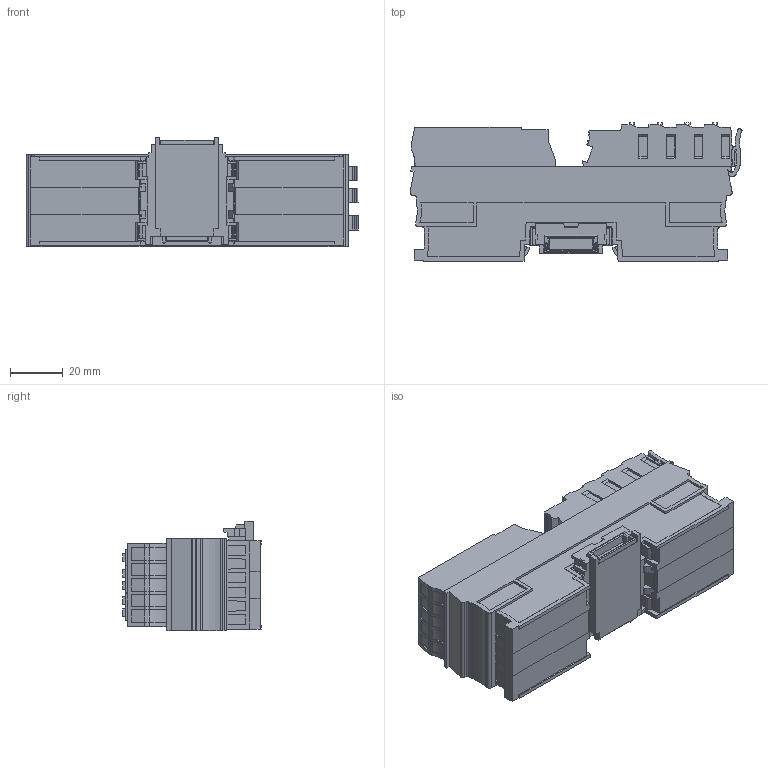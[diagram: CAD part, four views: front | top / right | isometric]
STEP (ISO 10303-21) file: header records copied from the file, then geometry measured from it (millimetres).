
FILE_DESCRIPTION((''),'2;1');
FILE_NAME('CU_REM-11120','2017-05-11T',('dkendric'),(''),'CREO PARAMETRIC BY PTC INC, 2015380','CREO PARAMETRIC BY PTC INC, 2015380','');
FILE_SCHEMA(('CONFIG_CONTROL_DESIGN'));
Length unit declared in the file: inch
Products named in the file (1): CU_REM-11120
Bounding box: 126.17 x 52.6 x 41.8 mm (x, y, z)
Volume: 180587.4 mm3; surface area: 35419.5 mm2
Topology: 1 solids, 1 shells, 1729 faces, 5040 edges, 3427 vertices
Faces by surface type: plane 1319, cylinder 370, cone 40
Entity records: 57590 total; most frequent: CARTESIAN_POINT 11359, ORIENTED_EDGE 10080, DIRECTION 8996, EDGE_CURVE 5040, VECTOR 3876, LINE 3876, VERTEX_POINT 3427, AXIS2_PLACEMENT_3D 2560
